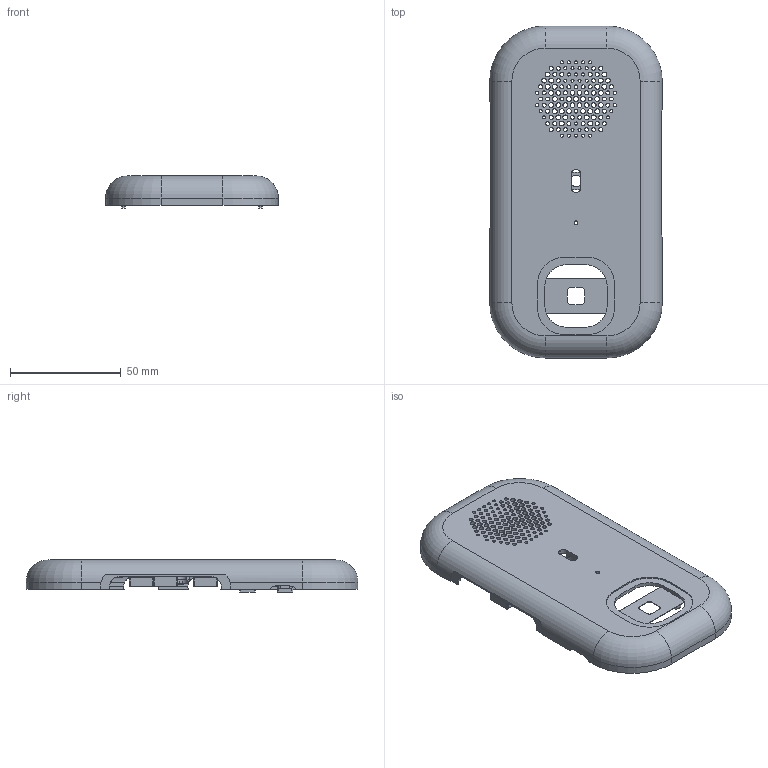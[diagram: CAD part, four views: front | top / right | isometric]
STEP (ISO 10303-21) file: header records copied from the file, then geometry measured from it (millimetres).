
FILE_DESCRIPTION(('Open CASCADE Model'),'2;1');
FILE_NAME('C27_01_Front_Shell_Chalk_Centered_Mic','2026-09-09T13:54:16', ('Author'),('Open CASCADE'),'Open CASCADE STEP processor 7.9', 'build123d','Unknown');
FILE_SCHEMA(('AUTOMOTIVE_DESIGN { 1 0 10303 214 1 1 1 1 }'));
Length unit declared in the file: millimetre
Products named in the file (1): C27_01_Front_Shell_Chalk_Centered_Mic
Bounding box: 78 x 150 x 14.51 mm (x, y, z)
Volume: 31105.9 mm3; surface area: 34856.1 mm2
Topology: 1 solids, 3 shells, 830 faces, 2384 edges, 1576 vertices
Faces by surface type: cylinder 439, plane 383, torus 8
Full cylindrical faces by diameter (mm): 1.4 x32, 1.7 x4, 1.8 x49, 2.1 x4, 2.2 x42, 3 x3, 4.2 x8, 5.3 x1, 5.5 x1, 8 x1
Entity records: 64072 total; most frequent: CARTESIAN_POINT 16280, DIRECTION 9123, LINE 5057, VECTOR 5057, ORIENTED_EDGE 4768, PCURVE 4768, DEFINITIONAL_REPRESENTATION 4768, EDGE_CURVE 2384
